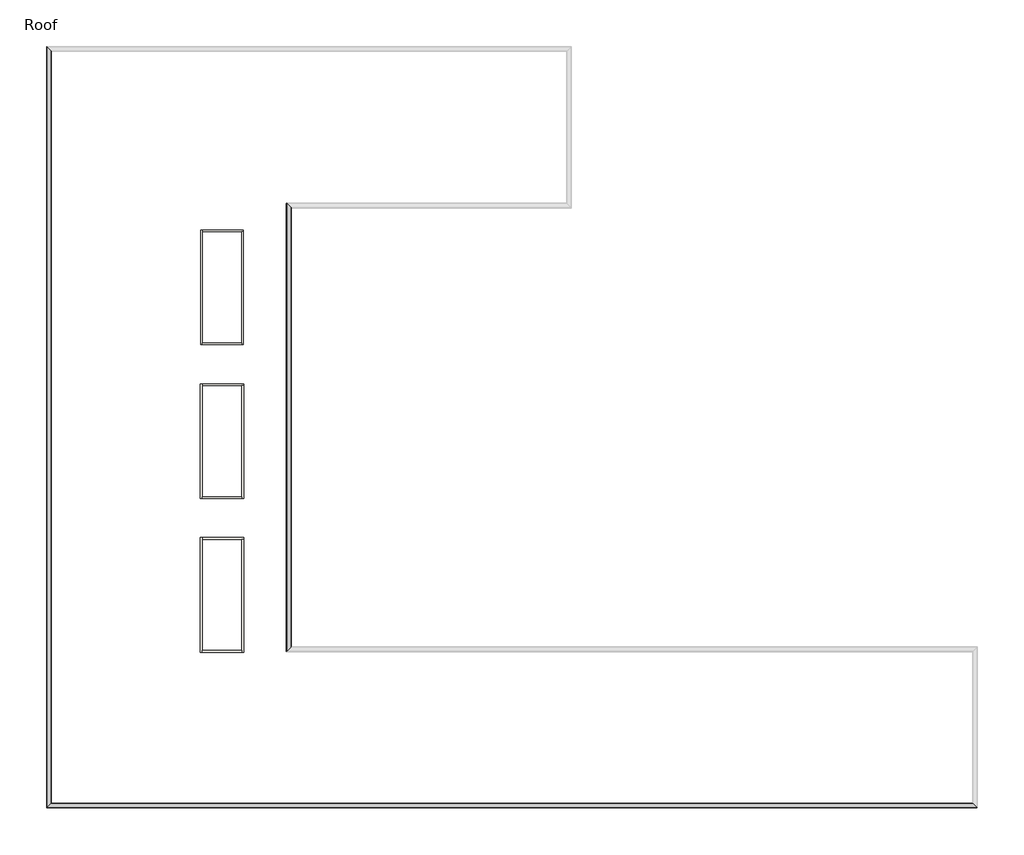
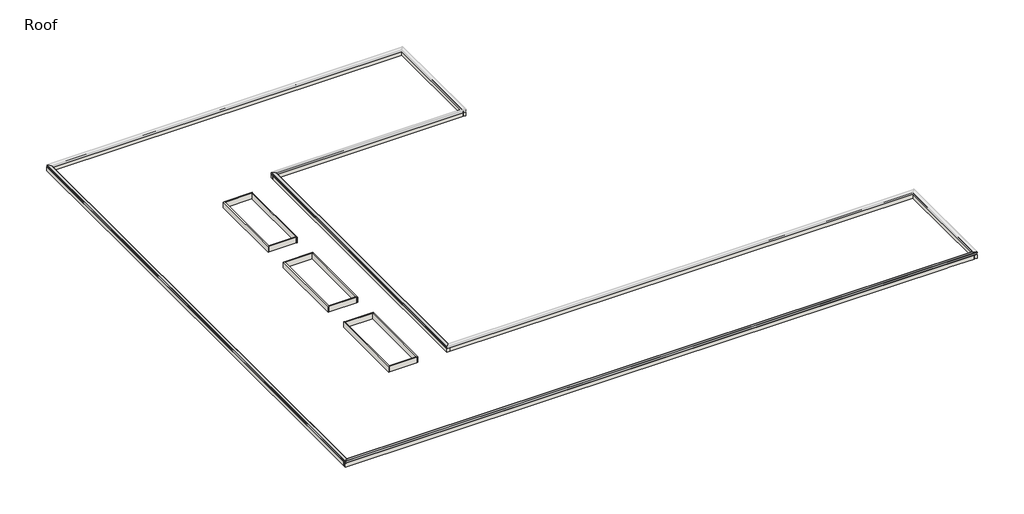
# One storey, part 1 of 2: 20 walls, 3 proxies.
"""IFC4 building model written with IfcOpenShell, lengths in millimetres."""

from ifc_helpers import new_model, si_unit, frame, origin, place, context, project, spatial, polyline, ellipse_curve, outline, extrude, faceted_brep, element, save
from ifc_brep_helpers import plane_surface, cylinder_surface, advanced_brep

model = new_model("IFC4")

# Units and contexts
model_context = context("Model", 3, world=origin())
ifc_project = project(units=[si_unit("LENGTHUNIT", "METRE", prefix="MILLI")], contexts=[model_context])

# Site, building, storey
site = spatial("IfcSite", under=ifc_project)
building = spatial("IfcBuilding", under=site)
storey = spatial("IfcBuildingStorey", under=building, Name="Roof", Elevation=10972.8)

# Proxies
placement = place(None, origin())
element("IfcBuildingElementProxy", 1, Name="Wall Sweeps", at=placement, inside=storey, context=model_context, shape_type="AdvancedBrep", body=[
    advanced_brep(
    [(17384.0457476, 42551.275, 11636.9329619), (17384.0457476, 42551.275, 11647.1824239), (17387.2207476, 42548.1, 11647.1824239), (17387.2207476, 42548.1, 11431.2824239), (17404.2349718, 42531.0857758, 11414.2681997), (17402.0062599, 42533.3144877, 11412.0394878), (17384.0457476, 42551.275, 11430.0), (17384.0457476, 42551.275, 11633.7462366), (17076.0707476, 42859.25, 11607.2537634), (17076.0707476, 42859.25, 11430.0), (17058.1102354, 42877.2105122, 11412.0394878), (17055.8651714, 42879.4555762, 11414.2845518), (17072.8957476, 42862.425, 11431.3151281), (17072.8957476, 42862.425, 11607.5268817), (17067.6672416, 42867.653506, 11607.0771178), (17068.7777162, 42866.5430314, 11609.8131313), (17384.0457476, 11201.325, 11636.9329619), (17068.7777162, 10886.0569685, 11609.8131313), (17067.6672416, 10884.9464939, 11607.0771178), (17072.8957476, 10890.175, 11607.5268817), (17072.8957476, 10890.175, 11431.3151281), (17055.8651714, 10873.1444237, 11414.2845518), (17058.1102354, 10875.3894877, 11412.0394878), (17076.0707476, 10893.35, 11430.0), (17076.0707476, 10893.35, 11607.2537634), (17384.0457476, 11201.325, 11633.7462366), (17384.0457476, 11201.325, 11430.0), (17402.0062599, 11219.2855122, 11412.0394878), (17404.2349718, 11221.5142242, 11414.2681997), (17387.2207476, 11204.5, 11431.2824239), (17387.2207476, 11204.5, 11647.1824239), (17384.0457476, 11201.325, 11647.1824239)],
    [
        (0, 1),
        (1, 2, ellipse_curve(frame((17385.6332476, 42549.6875, 11647.1824239), z_axis=(0.7071067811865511, 0.707106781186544, 0.0), x_axis=(-0.707106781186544, 0.707106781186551, 0.0)), 2.245064, 1.5875)),
        (2, 3),
        (3, 4),
        (4, 5),
        (5, 6),
        (6, 7),
        (7, 8),
        (8, 9),
        (9, 10),
        (10, 11),
        (11, 12),
        (12, 13),
        (13, 14),
        (14, 15, ellipse_curve(frame((17067.6672416, 42867.653506, 11608.6704804), z_axis=(0.7071067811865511, 0.707106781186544, 0.0), x_axis=(-0.707106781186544, 0.707106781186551, 0.0)), 2.2533551, 1.5933627)),
        (15, 0),
        (16, 17),
        (17, 18, ellipse_curve(frame((17067.6672416, 10884.9464939, 11608.6704804), z_axis=(0.7071067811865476, -0.7071067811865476, 0.0), x_axis=(0.7071067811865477, 0.7071067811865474, 0.0)), 2.2533551, 1.5933627)),
        (18, 19),
        (19, 20),
        (20, 21),
        (21, 22),
        (22, 23),
        (23, 24),
        (24, 25),
        (25, 26),
        (26, 27),
        (27, 28),
        (28, 29),
        (29, 30),
        (30, 31, ellipse_curve(frame((17385.6332476, 11202.9125, 11647.1824239), z_axis=(0.7071067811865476, -0.7071067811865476, 0.0), x_axis=(0.7071067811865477, 0.7071067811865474, 0.0)), 2.245064, 1.5875)),
        (31, 16),
        (0, 16),
        (31, 1),
        (30, 2),
        (29, 3),
        (28, 4),
        (27, 5),
        (26, 6),
        (25, 7),
        (24, 8),
        (23, 9),
        (22, 10),
        (21, 11),
        (20, 12),
        (19, 13),
        (18, 14),
        (17, 15),
    ],
    [
        plane_surface(frame((17377.6957476, 42557.625, 11277.6), z_axis=(0.7071067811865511, 0.707106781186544, 0.0), x_axis=(0.707106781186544, -0.7071067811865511, 0.0))),
        plane_surface(frame((17377.6957476, 11194.975, 11277.6), z_axis=(0.7071067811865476, -0.7071067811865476, 0.0), x_axis=(0.7071067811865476, 0.7071067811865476, 0.0))),
        plane_surface(frame((17384.0457476, 42551.275, 11636.9329619), z_axis=(-1.0, 0.0, 0.0), x_axis=(0.0, -1.0, 0.0))),
        cylinder_surface(frame((17385.6332476, 42557.625, 11647.1824239), z_axis=(0.0, 1.0, 0.0), x_axis=(-1.0, 0.0, 0.0)), 1.5875),
        plane_surface(frame((17387.2207476, 42548.1, 11647.1824239), z_axis=(1.0, 0.0, 0.0), x_axis=(0.0, -1.0, 0.0))),
        plane_surface(frame((17387.2207476, 42548.1, 11431.2824239), z_axis=(0.7071067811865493, 0.0, 0.7071067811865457), x_axis=(0.0, -1.0, 0.0))),
        plane_surface(frame((17404.2349718, 42531.0857758, 11414.2681997), z_axis=(0.7071067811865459, 0.0, -0.7071067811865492), x_axis=(0.0, -1.0, 0.0))),
        plane_surface(frame((17402.0062599, 42533.3144877, 11412.0394878), z_axis=(-0.7071067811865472, 0.0, -0.7071067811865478), x_axis=(0.0, -1.0, 0.0))),
        plane_surface(frame((17384.0457476, 42551.275, 11430.0), z_axis=(-1.0, 0.0, 0.0), x_axis=(0.0, -1.0, 0.0))),
        plane_surface(frame((17384.0457476, 42551.275, 11633.7462366), z_axis=(0.08570499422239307, 0.0, -0.9963205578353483), x_axis=(0.0, -1.0, 0.0))),
        plane_surface(frame((17076.0707476, 42859.25, 11607.2537634), z_axis=(1.0, 0.0, 0.0), x_axis=(0.0, -1.0, 0.0))),
        plane_surface(frame((17076.0707476, 42859.25, 11430.0), z_axis=(0.707106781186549, 0.0, -0.707106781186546), x_axis=(0.0, -1.0, 0.0))),
        plane_surface(frame((17058.1102354, 42877.2105122, 11412.0394878), z_axis=(-0.7071067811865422, 0.0, -0.7071067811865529), x_axis=(0.0, -1.0, 0.0))),
        plane_surface(frame((17055.8651714, 42879.4555762, 11414.2845518), z_axis=(-0.7071067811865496, 0.0, 0.7071067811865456), x_axis=(0.0, -1.0, 0.0))),
        plane_surface(frame((17072.8957476, 42862.425, 11431.3151281), z_axis=(-1.0, 0.0, 0.0), x_axis=(0.0, -1.0, 0.0))),
        plane_surface(frame((17072.8957476, 42862.425, 11607.5268817), z_axis=(0.08570499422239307, 0.0, -0.9963205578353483), x_axis=(0.0, -1.0, 0.0))),
        cylinder_surface(frame((17067.6672416, 42557.625, 11608.6704804), z_axis=(0.0, 1.0, 0.0), x_axis=(-1.0, 0.0, 0.0)), 1.5933627),
        plane_surface(frame((17068.7777162, 42866.5430314, 11609.8131313), z_axis=(-0.08570499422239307, 0.0, 0.9963205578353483), x_axis=(0.0, -1.0, 0.0))),
    ],
    [
        (0, [[1, 2, 3, 4, 5, 6, 7, 8, 9, 10, 11, 12, 13, 14, 15, 16]]),
        (1, [[17, 18, 19, 20, 21, 22, 23, 24, 25, 26, 27, 28, 29, 30, 31, 32]]),
        (2, [[-1, 33, -32, 34]]),
        (3, [[-2, -34, -31, 35]]),
        (4, [[-3, -35, -30, 36]]),
        (5, [[-4, -36, -29, 37]]),
        (6, [[-5, -37, -28, 38]]),
        (7, [[-6, -38, -27, 39]]),
        (8, [[-7, -39, -26, 40]]),
        (9, [[-8, -40, -25, 41]]),
        (10, [[-9, -41, -24, 42]]),
        (11, [[-10, -42, -23, 43]]),
        (12, [[-11, -43, -22, 44]]),
        (13, [[-12, -44, -21, 45]]),
        (14, [[-13, -45, -20, 46]]),
        (15, [[-14, -46, -19, 47]]),
        (16, [[-15, -47, -18, 48]]),
        (17, [[-16, -48, -17, -33]]),
    ],
),
])
element("IfcBuildingElementProxy", 2, Name="Wall Sweeps", at=placement, inside=storey, context=model_context, shape_type="AdvancedBrep", body=[
    advanced_brep(
    [(66317.1457476, -260.425, 11636.9329619), (66317.1457476, -260.425, 11647.1824239), (66320.3207476, -263.6, 11647.1824239), (66320.3207476, -263.6, 11431.2824239), (66337.3349718, -280.6142242, 11414.2681997), (66335.1062599, -278.3855123, 11412.0394878), (66317.1457476, -260.425, 11430.0), (66317.1457476, -260.425, 11633.7462366), (66009.1707476, 47.55, 11607.2537634), (66009.1707476, 47.55, 11430.0), (65991.2102354, 65.5105122, 11412.0394878), (65988.9651714, 67.7555762, 11414.2845518), (66005.9957476, 50.725, 11431.3151281), (66005.9957476, 50.725, 11607.5268817), (66000.7672416, 55.953506, 11607.0771178), (66001.8777162, 54.8430314, 11609.8131313), (-34.0042524, -260.425, 11636.9329619), (281.2637791, 54.8430314, 11609.8131313), (282.3742537, 55.953506, 11607.0771178), (277.1457476, 50.725, 11607.5268817), (277.1457476, 50.725, 11431.3151281), (294.1763239, 67.7555762, 11414.2845518), (291.9312599, 65.5105122, 11412.0394878), (273.9707476, 47.55, 11430.0), (273.9707476, 47.55, 11607.2537634), (-34.0042524, -260.425, 11633.7462366), (-34.0042524, -260.425, 11430.0), (-51.9647646, -278.3855123, 11412.0394878), (-54.1934766, -280.6142242, 11414.2681997), (-37.1792524, -263.6, 11431.2824239), (-37.1792524, -263.6, 11647.1824239), (-34.0042524, -260.425, 11647.1824239)],
    [
        (0, 1),
        (1, 2, ellipse_curve(frame((66318.7332476, -262.0125, 11647.1824239), z_axis=(0.7071067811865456, 0.7071067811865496, 0.0), x_axis=(0.7071067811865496, -0.7071067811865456, 0.0)), 2.245064, 1.5875)),
        (2, 3),
        (3, 4),
        (4, 5),
        (5, 6),
        (6, 7),
        (7, 8),
        (8, 9),
        (9, 10),
        (10, 11),
        (11, 12),
        (12, 13),
        (13, 14),
        (14, 15, ellipse_curve(frame((66000.7672416, 55.953506, 11608.6704804), z_axis=(0.7071067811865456, 0.7071067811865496, 0.0), x_axis=(0.7071067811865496, -0.7071067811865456, 0.0)), 2.2533551, 1.5933627)),
        (15, 0),
        (16, 17),
        (17, 18, ellipse_curve(frame((282.3742537, 55.953506, 11608.6704804), z_axis=(-0.7071067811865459, 0.7071067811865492, 0.0), x_axis=(0.707106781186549, 0.7071067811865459, 0.0)), 2.2533551, 1.5933627)),
        (18, 19),
        (19, 20),
        (20, 21),
        (21, 22),
        (22, 23),
        (23, 24),
        (24, 25),
        (25, 26),
        (26, 27),
        (27, 28),
        (28, 29),
        (29, 30),
        (30, 31, ellipse_curve(frame((-35.5917524, -262.0125, 11647.1824239), z_axis=(-0.7071067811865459, 0.7071067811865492, 0.0), x_axis=(0.707106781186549, 0.7071067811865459, 0.0)), 2.245064, 1.5875)),
        (31, 16),
        (0, 16),
        (31, 1),
        (30, 2),
        (29, 3),
        (28, 4),
        (27, 5),
        (26, 6),
        (25, 7),
        (24, 8),
        (23, 9),
        (22, 10),
        (21, 11),
        (20, 12),
        (19, 13),
        (18, 14),
        (17, 15),
    ],
    [
        plane_surface(frame((66310.7957476, -254.075, 11887.2), z_axis=(0.7071067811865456, 0.7071067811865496, 0.0), x_axis=(-0.7071067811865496, 0.7071067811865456, 0.0))),
        plane_surface(frame((-27.6542524, -254.075, 11887.2), z_axis=(-0.7071067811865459, 0.7071067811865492, 0.0), x_axis=(0.7071067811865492, 0.7071067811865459, 0.0))),
        plane_surface(frame((66317.1457476, -260.425, 11636.9329619), z_axis=(0.0, 1.0, 0.0), x_axis=(-1.0, 0.0, 0.0))),
        cylinder_surface(frame((66310.7957476, -262.0125, 11647.1824239), z_axis=(1.0, 0.0, 0.0), x_axis=(0.0, 1.0, 0.0)), 1.5875),
        plane_surface(frame((66320.3207476, -263.6, 11647.1824239), z_axis=(0.0, -1.0, 0.0), x_axis=(-1.0, 0.0, 0.0))),
        plane_surface(frame((66320.3207476, -263.6, 11431.2824239), z_axis=(0.0, -0.7071067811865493, 0.7071067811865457), x_axis=(-1.0, 0.0, 0.0))),
        plane_surface(frame((66337.3349718, -280.6142242, 11414.2681997), z_axis=(0.0, -0.7071067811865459, -0.7071067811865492), x_axis=(-1.0, 0.0, 0.0))),
        plane_surface(frame((66335.1062599, -278.3855123, 11412.0394878), z_axis=(0.0, 0.7071067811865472, -0.7071067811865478), x_axis=(-1.0, 0.0, 0.0))),
        plane_surface(frame((66317.1457476, -260.425, 11430.0), z_axis=(0.0, 1.0, 0.0), x_axis=(-1.0, 0.0, 0.0))),
        plane_surface(frame((66317.1457476, -260.425, 11633.7462366), z_axis=(0.0, -0.08570499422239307, -0.9963205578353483), x_axis=(-1.0, 0.0, 0.0))),
        plane_surface(frame((66009.1707476, 47.55, 11607.2537634), z_axis=(0.0, -1.0, 0.0), x_axis=(-1.0, 0.0, 0.0))),
        plane_surface(frame((66009.1707476, 47.55, 11430.0), z_axis=(0.0, -0.707106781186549, -0.707106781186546), x_axis=(-1.0, 0.0, 0.0))),
        plane_surface(frame((65991.2102354, 65.5105122, 11412.0394878), z_axis=(0.0, 0.7071067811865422, -0.7071067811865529), x_axis=(-1.0, 0.0, 0.0))),
        plane_surface(frame((65988.9651714, 67.7555762, 11414.2845518), z_axis=(0.0, 0.7071067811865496, 0.7071067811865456), x_axis=(-1.0, 0.0, 0.0))),
        plane_surface(frame((66005.9957476, 50.725, 11431.3151281), z_axis=(0.0, 1.0, 0.0), x_axis=(-1.0, 0.0, 0.0))),
        plane_surface(frame((66005.9957476, 50.725, 11607.5268817), z_axis=(0.0, -0.08570499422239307, -0.9963205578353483), x_axis=(-1.0, 0.0, 0.0))),
        cylinder_surface(frame((66310.7957476, 55.953506, 11608.6704804), z_axis=(1.0, 0.0, 0.0), x_axis=(0.0, 1.0, 0.0)), 1.5933627),
        plane_surface(frame((66001.8777162, 54.8430314, 11609.8131313), z_axis=(0.0, 0.08570499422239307, 0.9963205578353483), x_axis=(-1.0, 0.0, 0.0))),
    ],
    [
        (0, [[1, 2, 3, 4, 5, 6, 7, 8, 9, 10, 11, 12, 13, 14, 15, 16]]),
        (1, [[17, 18, 19, 20, 21, 22, 23, 24, 25, 26, 27, 28, 29, 30, 31, 32]]),
        (2, [[-1, 33, -32, 34]]),
        (3, [[-2, -34, -31, 35]]),
        (4, [[-3, -35, -30, 36]]),
        (5, [[-4, -36, -29, 37]]),
        (6, [[-5, -37, -28, 38]]),
        (7, [[-6, -38, -27, 39]]),
        (8, [[-7, -39, -26, 40]]),
        (9, [[-8, -40, -25, 41]]),
        (10, [[-9, -41, -24, 42]]),
        (11, [[-10, -42, -23, 43]]),
        (12, [[-11, -43, -22, 44]]),
        (13, [[-12, -44, -21, 45]]),
        (14, [[-13, -45, -20, 46]]),
        (15, [[-14, -46, -19, 47]]),
        (16, [[-15, -47, -18, 48]]),
        (17, [[-16, -48, -17, -33]]),
    ],
),
])
element("IfcBuildingElementProxy", 3, Name="Wall Sweeps", at=placement, inside=storey, context=model_context, shape_type="AdvancedBrep", body=[
    advanced_brep(
    [(-34.0042524, -260.425, 11636.9329619), (-34.0042524, -260.425, 11647.1824239), (-37.1792524, -263.6, 11647.1824239), (-37.1792524, -263.6, 11431.2824239), (-54.1934766, -280.6142242, 11414.2681997), (-51.9647646, -278.3855123, 11412.0394878), (-34.0042524, -260.425, 11430.0), (-34.0042524, -260.425, 11633.7462366), (273.9707476, 47.55, 11607.2537634), (273.9707476, 47.55, 11430.0), (291.9312599, 65.5105122, 11412.0394878), (294.1763239, 67.7555762, 11414.2845518), (277.1457476, 50.725, 11431.3151281), (277.1457476, 50.725, 11607.5268817), (282.3742537, 55.953506, 11607.0771178), (281.2637791, 54.8430314, 11609.8131313), (-34.0042524, 54038.425, 11636.9329619), (281.2637791, 53723.1569685, 11609.8131313), (282.3742537, 53722.0464939, 11607.0771178), (277.1457476, 53727.275, 11607.5268817), (277.1457476, 53727.275, 11431.3151281), (294.1763239, 53710.2444237, 11414.2845518), (291.9312599, 53712.4894877, 11412.0394878), (273.9707476, 53730.45, 11430.0), (273.9707476, 53730.45, 11607.2537634), (-34.0042524, 54038.425, 11633.7462366), (-34.0042524, 54038.425, 11430.0), (-51.9647646, 54056.3855122, 11412.0394878), (-54.1934766, 54058.6142242, 11414.2681997), (-37.1792524, 54041.6, 11431.2824239), (-37.1792524, 54041.6, 11647.1824239), (-34.0042524, 54038.425, 11647.1824239)],
    [
        (0, 1),
        (1, 2, ellipse_curve(frame((-35.5917524, -262.0125, 11647.1824239), z_axis=(0.7071067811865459, -0.7071067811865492, 0.0), x_axis=(-0.7071067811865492, -0.7071067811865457, 0.0)), 2.245064, 1.5875)),
        (2, 3),
        (3, 4),
        (4, 5),
        (5, 6),
        (6, 7),
        (7, 8),
        (8, 9),
        (9, 10),
        (10, 11),
        (11, 12),
        (12, 13),
        (13, 14),
        (14, 15, ellipse_curve(frame((282.3742537, 55.953506, 11608.6704804), z_axis=(0.7071067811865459, -0.7071067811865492, 0.0), x_axis=(-0.7071067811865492, -0.7071067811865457, 0.0)), 2.2533551, 1.5933627)),
        (15, 0),
        (16, 17),
        (17, 18, ellipse_curve(frame((282.3742537, 53722.0464939, 11608.6704804), z_axis=(0.7071067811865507, 0.7071067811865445, 0.0), x_axis=(0.7071067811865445, -0.7071067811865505, 0.0)), 2.2533551, 1.5933627)),
        (18, 19),
        (19, 20),
        (20, 21),
        (21, 22),
        (22, 23),
        (23, 24),
        (24, 25),
        (25, 26),
        (26, 27),
        (27, 28),
        (28, 29),
        (29, 30),
        (30, 31, ellipse_curve(frame((-35.5917524, 54040.0125, 11647.1824239), z_axis=(0.7071067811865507, 0.7071067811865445, 0.0), x_axis=(0.7071067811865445, -0.7071067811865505, 0.0)), 2.245064, 1.5875)),
        (31, 16),
        (0, 16),
        (31, 1),
        (30, 2),
        (29, 3),
        (28, 4),
        (27, 5),
        (26, 6),
        (25, 7),
        (24, 8),
        (23, 9),
        (22, 10),
        (21, 11),
        (20, 12),
        (19, 13),
        (18, 14),
        (17, 15),
    ],
    [
        plane_surface(frame((-27.6542524, -254.075, 11887.2), z_axis=(0.7071067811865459, -0.7071067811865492, 0.0), x_axis=(0.7071067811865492, 0.7071067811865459, 0.0))),
        plane_surface(frame((-27.6542524, 54032.075, 11887.2), z_axis=(0.7071067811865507, 0.7071067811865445, 0.0), x_axis=(0.7071067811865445, -0.7071067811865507, 0.0))),
        plane_surface(frame((-34.0042524, -260.425, 11636.9329619), z_axis=(1.0, 0.0, 0.0), x_axis=(0.0, 1.0, 0.0))),
        cylinder_surface(frame((-35.5917524, -254.075, 11647.1824239), z_axis=(0.0, -1.0, 0.0), x_axis=(1.0, 0.0, 0.0)), 1.5875),
        plane_surface(frame((-37.1792524, -263.6, 11647.1824239), z_axis=(-1.0, 0.0, 0.0), x_axis=(0.0, 1.0, 0.0))),
        plane_surface(frame((-37.1792524, -263.6, 11431.2824239), z_axis=(-0.7071067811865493, 0.0, 0.7071067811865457), x_axis=(0.0, 1.0, 0.0))),
        plane_surface(frame((-54.1934766, -280.6142242, 11414.2681997), z_axis=(-0.7071067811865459, 0.0, -0.7071067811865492), x_axis=(0.0, 1.0, 0.0))),
        plane_surface(frame((-51.9647646, -278.3855123, 11412.0394878), z_axis=(0.7071067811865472, 0.0, -0.7071067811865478), x_axis=(0.0, 1.0, 0.0))),
        plane_surface(frame((-34.0042524, -260.425, 11430.0), z_axis=(1.0, 0.0, 0.0), x_axis=(0.0, 1.0, 0.0))),
        plane_surface(frame((-34.0042524, -260.425, 11633.7462366), z_axis=(-0.08570499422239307, 0.0, -0.9963205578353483), x_axis=(0.0, 1.0, 0.0))),
        plane_surface(frame((273.9707476, 47.55, 11607.2537634), z_axis=(-1.0, 0.0, 0.0), x_axis=(0.0, 1.0, 0.0))),
        plane_surface(frame((273.9707476, 47.55, 11430.0), z_axis=(-0.707106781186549, 0.0, -0.707106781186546), x_axis=(0.0, 1.0, 0.0))),
        plane_surface(frame((291.9312599, 65.5105122, 11412.0394878), z_axis=(0.7071067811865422, 0.0, -0.7071067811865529), x_axis=(0.0, 1.0, 0.0))),
        plane_surface(frame((294.1763239, 67.7555762, 11414.2845518), z_axis=(0.7071067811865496, 0.0, 0.7071067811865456), x_axis=(0.0, 1.0, 0.0))),
        plane_surface(frame((277.1457476, 50.725, 11431.3151281), z_axis=(1.0, 0.0, 0.0), x_axis=(0.0, 1.0, 0.0))),
        plane_surface(frame((277.1457476, 50.725, 11607.5268817), z_axis=(-0.08570499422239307, 0.0, -0.9963205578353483), x_axis=(0.0, 1.0, 0.0))),
        cylinder_surface(frame((282.3742537, -254.075, 11608.6704804), z_axis=(0.0, -1.0, 0.0), x_axis=(1.0, 0.0, 0.0)), 1.5933627),
        plane_surface(frame((281.2637791, 54.8430314, 11609.8131313), z_axis=(0.08570499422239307, 0.0, 0.9963205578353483), x_axis=(0.0, 1.0, 0.0))),
    ],
    [
        (0, [[1, 2, 3, 4, 5, 6, 7, 8, 9, 10, 11, 12, 13, 14, 15, 16]]),
        (1, [[17, 18, 19, 20, 21, 22, 23, 24, 25, 26, 27, 28, 29, 30, 31, 32]]),
        (2, [[-1, 33, -32, 34]]),
        (3, [[-2, -34, -31, 35]]),
        (4, [[-3, -35, -30, 36]]),
        (5, [[-4, -36, -29, 37]]),
        (6, [[-5, -37, -28, 38]]),
        (7, [[-6, -38, -27, 39]]),
        (8, [[-7, -39, -26, 40]]),
        (9, [[-8, -40, -25, 41]]),
        (10, [[-9, -41, -24, 42]]),
        (11, [[-10, -42, -23, 43]]),
        (12, [[-11, -43, -22, 44]]),
        (13, [[-12, -44, -21, 45]]),
        (14, [[-13, -45, -20, 46]]),
        (15, [[-14, -46, -19, 47]]),
        (16, [[-15, -47, -18, 48]]),
        (17, [[-16, -48, -17, -33]]),
    ],
),
])

# Walls
element("IfcWall", 4, ObjectType="Exterior - Parapet EIFS on CMU", at=placement, inside=storey, context=model_context, shape_type="Brep", body=[
    faceted_brep([(37059.5207476, 54032.075, 10972.8), (37059.5207476, 53736.8, 10972.8), (37059.5207476, 42852.9, 10972.8), (37059.5207476, 42557.625, 10972.8), (37059.5207476, 42557.625, 11582.4), (37059.5207476, 42852.9, 11582.4), (37059.5207476, 53736.8, 11582.4), (37059.5207476, 54032.075, 11582.4), (37354.7957476, 54032.075, 10972.8), (37354.7957476, 54032.075, 11582.4), (37354.7957476, 42557.625, 11582.4), (37354.7957476, 42557.625, 10972.8), (37354.7957476, 45545.3, 10972.8)], [[[0, 1, 2, 3, 4, 5, 6, 7]], [[8, 9, 10, 11, 12]], [[3, 2, 1, 0, 8, 12, 11]], [[7, 6, 5, 4, 10, 9]], [[4, 3, 11, 10]], [[0, 7, 9, 8]]]),
])
element("IfcWall", 5, ObjectType="Exterior - Parapet EIFS on CMU", at=placement, inside=storey, context=model_context, shape_type="Brep", body=[
    faceted_brep([(37059.5207476, 42852.9, 10972.8), (17082.4207476, 42852.9, 10972.8), (17082.4207476, 42852.9, 11582.4), (37059.5207476, 42852.9, 11582.4), (37059.5207476, 42557.625, 10972.8), (37059.5207476, 42557.625, 11582.4), (17377.6957476, 42557.625, 11582.4), (17082.4207476, 42557.625, 11582.4), (17082.4207476, 42557.625, 10972.8), (17377.6957476, 42557.625, 10972.8)], [[[0, 1, 2, 3]], [[4, 5, 6, 7, 8, 9]], [[1, 0, 4, 9, 8]], [[3, 2, 7, 6, 5]], [[0, 3, 5, 4]], [[2, 1, 8, 7]]]),
])
element("IfcWall", 6, ObjectType="Exterior - Parapet EIFS on CMU", at=placement, inside=storey, context=model_context, shape_type="Brep", body=[
    faceted_brep([(17082.4207476, 42557.625, 10972.8), (17082.4207476, 10899.7, 10972.8), (17082.4207476, 10899.7, 11582.4), (17082.4207476, 42557.625, 11582.4), (17377.6957476, 42557.625, 10972.8), (17377.6957476, 42557.625, 11582.4), (17377.6957476, 11194.975, 11582.4), (17377.6957476, 10899.7, 11582.4), (17377.6957476, 10899.7, 10972.8), (17377.6957476, 11194.975, 10972.8)], [[[0, 1, 2, 3]], [[4, 5, 6, 7, 8, 9]], [[1, 0, 4, 9, 8]], [[3, 2, 7, 6, 5]], [[0, 3, 5, 4]], [[2, 1, 8, 7]]]),
])
element("IfcWall", 7, ObjectType="Exterior - Parapet EIFS on CMU", at=placement, inside=storey, context=model_context, shape_type="Brep", body=[
    faceted_brep([(17377.6957476, 10899.7, 10972.8), (66015.5207476, 10899.7, 10972.8), (66310.7957476, 10899.7, 10972.8), (66310.7957476, 10899.7, 11582.4), (66015.5207476, 10899.7, 11582.4), (17377.6957476, 10899.7, 11582.4), (17377.6957476, 11194.975, 10972.8), (17377.6957476, 11194.975, 11582.4), (66310.7957476, 11194.975, 11582.4), (66310.7957476, 11194.975, 10972.8)], [[[0, 1, 2, 3, 4, 5]], [[6, 7, 8, 9]], [[2, 1, 0, 6, 9]], [[5, 4, 3, 8, 7]], [[0, 5, 7, 6]], [[3, 2, 9, 8]]]),
])
element("IfcWall", 8, ObjectType="Exterior - Parapet EIFS on CMU", at=placement, inside=storey, context=model_context, shape_type="Brep", body=[
    faceted_brep([(66015.5207476, 10899.7, 10972.8), (66015.5207476, 41.2, 10972.8), (66015.5207476, -254.075, 10972.8), (66015.5207476, -254.075, 11582.4), (66015.5207476, 41.2, 11582.4), (66015.5207476, 10899.7, 11582.4), (66310.7957476, 10899.7, 10972.8), (66310.7957476, 10899.7, 11582.4), (66310.7957476, -254.075, 11582.4), (66310.7957476, -254.075, 10972.8), (66310.7957476, 53.9, 10972.8), (66310.7957476, 8334.3, 10972.8)], [[[0, 1, 2, 3, 4, 5]], [[6, 7, 8, 9, 10, 11]], [[2, 1, 0, 6, 11, 10, 9]], [[5, 4, 3, 8, 7]], [[0, 5, 7, 6]], [[3, 2, 9, 8]]]),
])
element("IfcWall", 9, ObjectType="Exterior - Parapet EIFS on CMU", at=placement, inside=storey, context=model_context, shape_type="Brep", body=[
    faceted_brep([(66015.5207476, 41.2, 10972.8), (267.6207476, 41.2, 10972.8), (-27.6542524, 41.2, 10972.8), (-27.6542524, 41.2, 11582.4), (267.6207476, 41.2, 11582.4), (66015.5207476, 41.2, 11582.4), (66015.5207476, -254.075, 10972.8), (66015.5207476, -254.075, 11582.4), (-27.6542524, -254.075, 11582.4), (-27.6542524, -254.075, 10972.8), (8357.5207476, -254.075, 10972.8), (22422.7707476, -254.075, 10972.8), (63137.3832476, -254.075, 10972.8), (63356.4582476, -254.075, 10972.8), (66002.8207476, -254.075, 10972.8)], [[[0, 1, 2, 3, 4, 5]], [[6, 7, 8, 9, 10, 11, 12, 13, 14]], [[2, 1, 0, 6, 14, 13, 12, 11, 10, 9]], [[5, 4, 3, 8, 7]], [[0, 5, 7, 6]], [[3, 2, 9, 8]]]),
])
element("IfcWall", 10, ObjectType="Exterior - Parapet EIFS on CMU", at=placement, inside=storey, context=model_context, shape_type="Brep", body=[
    faceted_brep([(267.6207476, 41.2, 10972.8), (267.6207476, 53736.8, 10972.8), (267.6207476, 54032.075, 10972.8), (267.6207476, 54032.075, 11582.4), (267.6207476, 53736.8, 11582.4), (267.6207476, 41.2, 11582.4), (-27.6542524, 54032.075, 10972.8), (-27.6542524, 45735.8, 10972.8), (-27.6542524, 40173.2, 10972.8), (-27.6542524, 40097.0, 10972.8), (-27.6542524, 28590.8, 10972.8), (-27.6542524, 28514.6, 10972.8), (-27.6542524, 25638.05, 10972.8), (-27.6542524, 41.2, 10972.8), (-27.6542524, 41.2, 11582.4), (-27.6542524, 54032.075, 11582.4)], [[[0, 1, 2, 3, 4, 5]], [[6, 7, 8, 9, 10, 11, 12, 13, 14, 15]], [[2, 1, 0, 13, 12, 11, 10, 9, 8, 7, 6]], [[5, 4, 3, 15, 14]], [[0, 5, 14, 13]], [[3, 2, 6, 15]]]),
])
element("IfcWall", 11, ObjectType="Exterior - Parapet EIFS on CMU", at=placement, inside=storey, context=model_context, shape_type="Brep", body=[
    faceted_brep([(267.6207476, 53736.8, 10972.8), (37059.5207476, 53736.8, 10972.8), (37059.5207476, 53736.8, 11582.4), (267.6207476, 53736.8, 11582.4), (267.6207476, 54032.075, 10972.8), (267.6207476, 54032.075, 11582.4), (37059.5207476, 54032.075, 11582.4), (37059.5207476, 54032.075, 10972.8), (34405.2207476, 54032.075, 10972.8), (16485.5207476, 54032.075, 10972.8)], [[[0, 1, 2, 3]], [[4, 5, 6, 7, 8, 9]], [[1, 0, 4, 9, 8, 7]], [[3, 2, 6, 5]], [[2, 1, 7, 6]], [[0, 3, 5, 4]]]),
])
element("IfcWall", 12, ObjectType="Typ. Partition Wall", at=placement, inside=storey, context=model_context, shape_type="Brep", body=[
    faceted_brep([(13998.9313551, 19015.0, 10972.8), (11039.0313551, 19015.0, 10972.8), (11039.0313551, 19015.0, 11582.4), (13998.9313551, 19015.0, 11582.4), (13998.9313551, 18900.7, 10972.8), (13998.9313551, 18900.7, 11582.4), (13884.6313551, 18900.7, 11582.4), (11039.0313551, 18900.7, 11582.4), (11039.0313551, 18900.7, 10972.8), (13884.6313551, 18900.7, 10972.8)], [[[0, 1, 2, 3]], [[4, 5, 6, 7, 8, 9]], [[1, 0, 4, 9, 8]], [[3, 2, 7, 6, 5]], [[0, 3, 5, 4]], [[2, 1, 8, 7]]]),
])
element("IfcWall", 13, ObjectType="Typ. Partition Wall", at=placement, inside=storey, context=model_context, shape_type="Brep", body=[
    faceted_brep([(13998.9313551, 10836.2, 10972.8), (13998.9313551, 18900.7, 10972.8), (13998.9313551, 18900.7, 11582.4), (13998.9313551, 10836.2, 11582.4), (13884.6313551, 10836.2, 10972.8), (13884.6313551, 10836.2, 11582.4), (13884.6313551, 10950.5, 11582.4), (13884.6313551, 18900.7, 11582.4), (13884.6313551, 18900.7, 10972.8), (13884.6313551, 10950.5, 10972.8)], [[[0, 1, 2, 3]], [[4, 5, 6, 7, 8, 9]], [[1, 0, 4, 9, 8]], [[3, 2, 7, 6, 5]], [[0, 3, 5, 4]], [[2, 1, 8, 7]]]),
])
element("IfcWall", 14, ObjectType="Typ. Partition Wall", at=placement, inside=storey, context=model_context, shape_type="SweptSolid", body=[
    extrude(outline(polyline([(13884.6313551, 10836.2), (11039.0313551, 10836.2), (11039.0313551, 10950.5), (13884.6313551, 10950.5), (13884.6313551, 10836.2)])), frame((0.0, 0.0, 10972.8), z_axis=(0.0, 0.0, 1.0), x_axis=(1.0, 0.0, 0.0)), (0.0, 0.0, 1.0), 609.6),
])
element("IfcWall", 15, ObjectType="Typ. Partition Wall", at=placement, inside=storey, context=model_context, shape_type="Brep", body=[
    faceted_brep([(10924.7313551, 19015.0, 10972.8), (10924.7313551, 10836.2, 10972.8), (10924.7313551, 10836.2, 11582.4), (10924.7313551, 19015.0, 11582.4), (11039.0313551, 19015.0, 10972.8), (11039.0313551, 19015.0, 11582.4), (11039.0313551, 18900.7, 11582.4), (11039.0313551, 10950.5, 11582.4), (11039.0313551, 10836.2, 11582.4), (11039.0313551, 10836.2, 10972.8), (11039.0313551, 10950.5, 10972.8), (11039.0313551, 18900.7, 10972.8)], [[[0, 1, 2, 3]], [[4, 5, 6, 7, 8, 9, 10, 11]], [[1, 0, 4, 11, 10, 9]], [[3, 2, 8, 7, 6, 5]], [[0, 3, 5, 4]], [[2, 1, 9, 8]]]),
])
element("IfcWall", 16, ObjectType="Typ. Partition Wall", at=placement, inside=storey, context=model_context, shape_type="Brep", body=[
    faceted_brep([(13998.9313552, 29987.8, 10972.8), (11039.0313551, 29987.8, 10972.8), (11039.0313551, 29987.8, 11582.4), (13998.9313552, 29987.8, 11582.4), (13998.9313552, 29873.5, 10972.8), (13998.9313552, 29873.5, 11582.4), (13884.6313552, 29873.5, 11582.4), (11039.0313551, 29873.5, 11582.4), (11039.0313551, 29873.5, 10972.8), (13884.6313552, 29873.5, 10972.8)], [[[0, 1, 2, 3]], [[4, 5, 6, 7, 8, 9]], [[1, 0, 4, 9, 8]], [[3, 2, 7, 6, 5]], [[0, 3, 5, 4]], [[2, 1, 8, 7]]]),
])
element("IfcWall", 17, ObjectType="Typ. Partition Wall", at=placement, inside=storey, context=model_context, shape_type="Brep", body=[
    faceted_brep([(13998.9313552, 21809.0, 10972.8), (13998.9313552, 29873.5, 10972.8), (13998.9313552, 29873.5, 11582.4), (13998.9313552, 21809.0, 11582.4), (13884.6313552, 21809.0, 10972.8), (13884.6313552, 21809.0, 11582.4), (13884.6313552, 21923.3, 11582.4), (13884.6313552, 29873.5, 11582.4), (13884.6313552, 29873.5, 10972.8), (13884.6313552, 21923.3, 10972.8)], [[[0, 1, 2, 3]], [[4, 5, 6, 7, 8, 9]], [[1, 0, 4, 9, 8]], [[3, 2, 7, 6, 5]], [[0, 3, 5, 4]], [[2, 1, 8, 7]]]),
])
element("IfcWall", 18, ObjectType="Typ. Partition Wall", at=placement, inside=storey, context=model_context, shape_type="SweptSolid", body=[
    extrude(outline(polyline([(13884.6313552, 21809.0), (11039.0313551, 21809.0), (11039.0313551, 21923.3), (13884.6313552, 21923.3), (13884.6313552, 21809.0)])), frame((0.0, 0.0, 10972.8), z_axis=(0.0, 0.0, 1.0), x_axis=(1.0, 0.0, 0.0)), (0.0, 0.0, 1.0), 609.6),
])
element("IfcWall", 19, ObjectType="Typ. Partition Wall", at=placement, inside=storey, context=model_context, shape_type="Brep", body=[
    faceted_brep([(10924.7313551, 29987.8, 10972.8), (10924.7313551, 21809.0, 10972.8), (10924.7313551, 21809.0, 11582.4), (10924.7313551, 29987.8, 11582.4), (11039.0313551, 29987.8, 10972.8), (11039.0313551, 29987.8, 11582.4), (11039.0313551, 29873.5, 11582.4), (11039.0313551, 21923.3, 11582.4), (11039.0313551, 21809.0, 11582.4), (11039.0313551, 21809.0, 10972.8), (11039.0313551, 21923.3, 10972.8), (11039.0313551, 29873.5, 10972.8)], [[[0, 1, 2, 3]], [[4, 5, 6, 7, 8, 9, 10, 11]], [[1, 0, 4, 11, 10, 9]], [[3, 2, 8, 7, 6, 5]], [[0, 3, 5, 4]], [[2, 1, 9, 8]]]),
])
element("IfcWall", 20, ObjectType="Typ. Partition Wall", at=placement, inside=storey, context=model_context, shape_type="Brep", body=[
    faceted_brep([(13988.9313552, 40960.6, 10972.8), (11059.2313551, 40960.6, 10972.8), (11059.2313551, 40960.6, 11582.4), (13988.9313552, 40960.6, 11582.4), (13988.9313552, 40846.3, 10972.8), (13988.9313552, 40846.3, 11582.4), (13874.6313552, 40846.3, 11582.4), (11059.2313551, 40846.3, 11582.4), (11059.2313551, 40846.3, 10972.8), (13874.6313552, 40846.3, 10972.8)], [[[0, 1, 2, 3]], [[4, 5, 6, 7, 8, 9]], [[1, 0, 4, 9, 8]], [[3, 2, 7, 6, 5]], [[0, 3, 5, 4]], [[2, 1, 8, 7]]]),
])
element("IfcWall", 21, ObjectType="Typ. Partition Wall", at=placement, inside=storey, context=model_context, shape_type="Brep", body=[
    faceted_brep([(13988.9313552, 32781.8, 10972.8), (13988.9313552, 40846.3, 10972.8), (13988.9313552, 40846.3, 11582.4), (13988.9313552, 32781.8, 11582.4), (13874.6313552, 32781.8, 10972.8), (13874.6313552, 32781.8, 11582.4), (13874.6313552, 32896.1, 11582.4), (13874.6313552, 40846.3, 11582.4), (13874.6313552, 40846.3, 10972.8), (13874.6313552, 32896.1, 10972.8)], [[[0, 1, 2, 3]], [[4, 5, 6, 7, 8, 9]], [[1, 0, 4, 9, 8]], [[3, 2, 7, 6, 5]], [[0, 3, 5, 4]], [[2, 1, 8, 7]]]),
])
element("IfcWall", 22, ObjectType="Typ. Partition Wall", at=placement, inside=storey, context=model_context, shape_type="SweptSolid", body=[
    extrude(outline(polyline([(13874.6313552, 32781.8), (11059.2313551, 32781.8), (11059.2313551, 32896.1), (13874.6313552, 32896.1), (13874.6313552, 32781.8)])), frame((0.0, 0.0, 10972.8), z_axis=(0.0, 0.0, 1.0), x_axis=(1.0, 0.0, 0.0)), (0.0, 0.0, 1.0), 609.6),
])
element("IfcWall", 23, ObjectType="Typ. Partition Wall", at=placement, inside=storey, context=model_context, shape_type="Brep", body=[
    faceted_brep([(10944.9313551, 40960.6, 10972.8), (10944.9313551, 32781.8, 10972.8), (10944.9313551, 32781.8, 11582.4), (10944.9313551, 40960.6, 11582.4), (11059.2313551, 40960.6, 10972.8), (11059.2313551, 40960.6, 11582.4), (11059.2313551, 40846.3, 11582.4), (11059.2313551, 32896.1, 11582.4), (11059.2313551, 32781.8, 11582.4), (11059.2313551, 32781.8, 10972.8), (11059.2313551, 32896.1, 10972.8), (11059.2313551, 40846.3, 10972.8)], [[[0, 1, 2, 3]], [[4, 5, 6, 7, 8, 9, 10, 11]], [[1, 0, 4, 11, 10, 9]], [[3, 2, 8, 7, 6, 5]], [[0, 3, 5, 4]], [[2, 1, 9, 8]]]),
])

save(model, "model.ifc")
